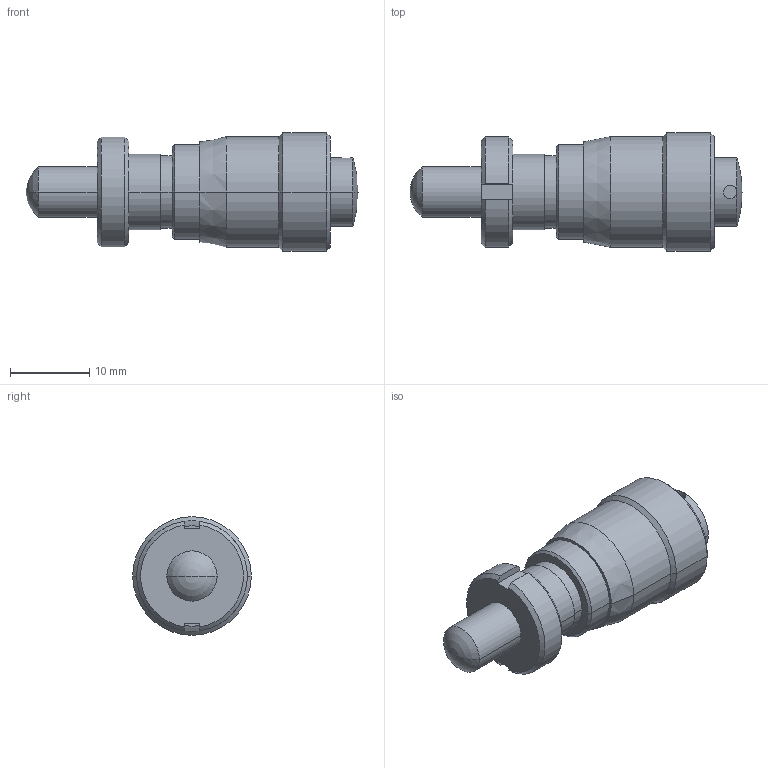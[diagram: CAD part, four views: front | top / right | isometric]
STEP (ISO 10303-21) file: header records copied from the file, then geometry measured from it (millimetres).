
FILE_DESCRIPTION(('Creo Elements/Direct Modeling STEP Export'),'2;1');
FILE_NAME('148-314_MHC4-6.5C.stp','2014-02-06T18:20:32',(''),(''),'Creo Elements/Direct Modeling STEP processor for AP214 (Solid Model)','Creo Elements/Direct Modeling 18.1B 29-Sep-2012 (C) Parametric Technology GmbH','');
FILE_SCHEMA(('AUTOMOTIVE_DESIGN { 1 0 10303 214 1 1 1 1 }'));
Length unit declared in the file: millimetre
Products named in the file (1): 148-314_MHC4-6.5C
Bounding box: 42 x 15 x 15 mm (x, y, z)
Volume: 4444.8 mm3; surface area: 1906.3 mm2
Topology: 1 solids, 1 shells, 47 faces, 106 edges, 64 vertices
Faces by surface type: cylinder 18, plane 13, cone 12, sphere 4
Entity records: 1541 total; most frequent: CARTESIAN_POINT 555, ORIENTED_EDGE 204, DIRECTION 186, EDGE_CURVE 102, AXIS2_PLACEMENT_3D 71, VERTEX_POINT 64, EDGE_LOOP 54, FACE_OUTER_BOUND 47
